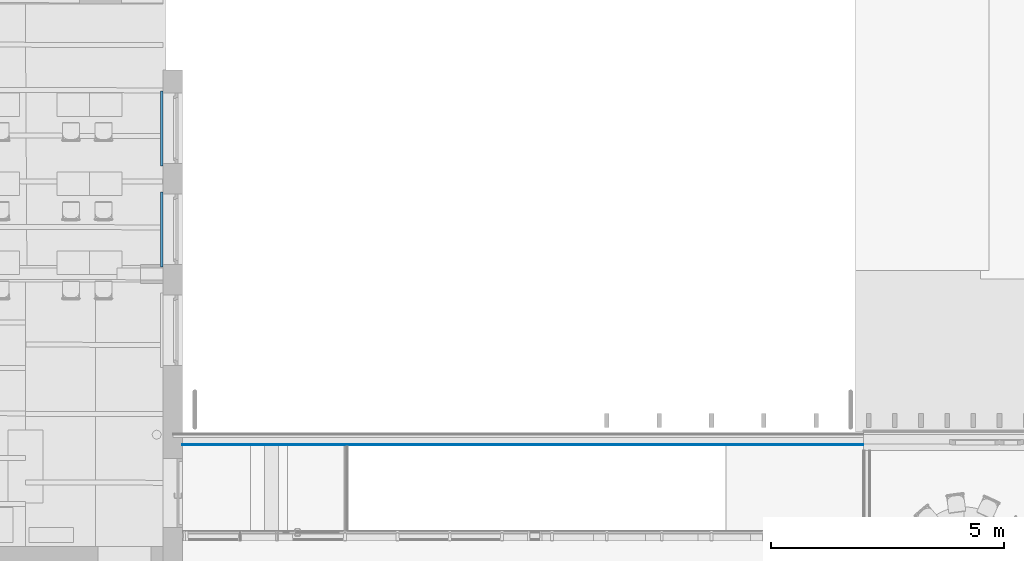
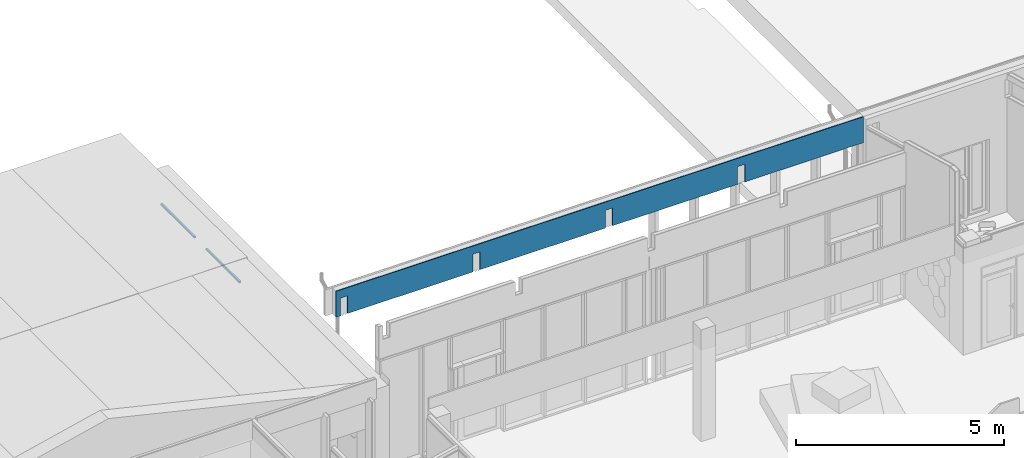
# One storey, part 66 of 153: 2 building element parts, 2 discrete accessories, 1 element without a shape of its own.
"""IFC2X3 building model written with IfcOpenShell, lengths in millimetres."""

from ifc_helpers import new_model, entity, si_unit, converted_unit, derived_unit, money_unit, direction, frame, origin_with_axes, place, context, subcontext, project, spatial, faceted_brep, material, type_object, element, aggregate, save


model = new_model("IFC2X3")

# Units and contexts
model_context = context("Model", 3, precision=0.01, world=origin_with_axes(), true_north=direction((0.0, 1.0)))
body_context = subcontext(model_context, "Body", "Model", "MODEL_VIEW")
ifc_project = project(units=[si_unit("LENGTHUNIT", "METRE", prefix="MILLI"), si_unit("AREAUNIT", "SQUARE_METRE"), si_unit("VOLUMEUNIT", "CUBIC_METRE"), converted_unit("PLANEANGLEUNIT", "DEGREE", entity("IfcPlaneAngleMeasure", 0.0174532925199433), si_unit("PLANEANGLEUNIT", "RADIAN"), dimensions=[0, 0, 0, 0, 0, 0, 0]), money_unit("EUR"), converted_unit("TIMEUNIT", "Year", entity("IfcTimeMeasure", 31557600.0), si_unit("TIMEUNIT", "SECOND"), dimensions=[0, 0, 1, 0, 0, 0, 0]), si_unit("MASSUNIT", "GRAM", prefix="KILO"), si_unit("THERMODYNAMICTEMPERATUREUNIT", "DEGREE_CELSIUS"), si_unit("LUMINOUSINTENSITYUNIT", "LUMEN"), si_unit("ENERGYUNIT", "JOULE", prefix="MEGA"), derived_unit("THERMALCONDUCTANCEUNIT", [(si_unit("POWERUNIT", "WATT"), 1), (si_unit("LENGTHUNIT", "METRE"), -1), (si_unit("THERMODYNAMICTEMPERATUREUNIT", "KELVIN"), -1)]), derived_unit("SPECIFICHEATCAPACITYUNIT", [(si_unit("ENERGYUNIT", "JOULE"), 1), (si_unit("MASSUNIT", "GRAM", prefix="KILO"), -1), (si_unit("THERMODYNAMICTEMPERATUREUNIT", "KELVIN"), -1)]), derived_unit("MASSDENSITYUNIT", [(si_unit("MASSUNIT", "GRAM", prefix="KILO"), 1), (si_unit("VOLUMEUNIT", "CUBIC_METRE"), -1)])], contexts=[model_context])

# Site, building, storey
site_placement = place(None, frame((0.0, 0.0, 8650.0), z_axis=(0.0, 0.0, 1.0), x_axis=(1.0, 0.0, 0.0)))
site = spatial("IfcSite", under=ifc_project, at=site_placement, Name="43301:001:0844", CompositionType="ELEMENT")
building_placement = place(site_placement, origin_with_axes())
building = spatial("IfcBuilding", under=site, at=building_placement, Name="Kuressaare Ametikooli tuulikute mehaanikute õppekorpus", CompositionType="ELEMENT")
storey_placement = place(building_placement, frame((0.0, 0.0, 4100.0), z_axis=(0.0, 0.0, 1.0), x_axis=(1.0, 0.0, 0.0)))
storey = spatial("IfcBuildingStorey", under=building, at=storey_placement, Name="2.korrus", CompositionType="ELEMENT", Elevation=4100.0)

# Discrete accessories
ifc_material_1 = material(Name="GENEERILINE - KONSTRUKTRIOON")
discrete_accessory_type = type_object("IfcDiscreteAccessoryType", Name="GENEERILINE - KONSTRUKTRIOON 50")
for number, where, z_axis, x_axis, name in (
    (1, (103227.5122070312, 35973.40836506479, 2170.000000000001), (0.0, 0.0, 1.0), (1.0, 0.0, 0.0), "RK2"),
    (2, (103227.5122070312, 33804.00949964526, 2170.000000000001), (0.0, 0.0, 1.0), (1.0, 0.0, 0.0), "RK2"),
):
    element("IfcDiscreteAccessory", number, at=place(storey_placement, frame(where, z_axis=z_axis, x_axis=x_axis)), inside=storey, type_object=discrete_accessory_type, material=ifc_material_1, Name=name, context=body_context, shape_type="Brep", body=[
        faceted_brep([(0.0, 0.0, 49.99999999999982), (0.0, 0.0, 0.0), (-49.99999999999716, 0.0, 0.0), (-49.99999999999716, 0.0, 49.99999999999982), (0.0, -1610.0, 49.99999999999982), (0.0, -1610.0, 0.0), (-49.99999999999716, -1610.0, 0.0), (-49.99999999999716, -1610.0, 49.99999999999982)], [[[0, 1, 2, 3]], [[4, 5, 1, 0]], [[2, 1, 5, 6]], [[3, 2, 6, 7]], [[4, 0, 3, 7]], [[7, 6, 5, 4]]]),
    ])

# Wall, building element parts
wall_type = type_object("IfcWallType", Name="VS_klaasfassaadi peal 246", PredefinedType="NOTDEFINED")
wall_placement = place(storey_placement, frame((103647.5122070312, 28356.59477213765, 3332.284635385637), z_axis=(0.0, 0.0, 1.0), x_axis=(1.0, 0.0, 0.0)))
wall = element("IfcWall", 3, at=wall_placement, inside=storey, type_object=wall_type, Name="Välissein")
ifc_material_2 = material(Name="Air Space - Frame")
building_element_part_1_placement = place(wall_placement, origin_with_axes())
building_element_part_1 = element("IfcBuildingElementPart", 4, at=building_element_part_1_placement, material=ifc_material_2, Name="Air Space - Frame", context=body_context, shape_type="Brep", body=[
    faceted_brep([(12414.58518066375, 22.99999999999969, 17.7153646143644), (12414.58518066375, 22.99999999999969, 0.0), (11345.43716757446, 22.99999999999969, 0.0), (11345.43716757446, 22.99999999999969, 512.2518524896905), (11145.43716757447, 22.99999999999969, 512.2518524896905), (11145.43716757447, 22.99999999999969, 0.0), (10314.58518066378, 22.99999999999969, 0.0), (10314.58518066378, 22.99999999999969, 17.7153646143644), (10306.58518066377, 22.99999999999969, 17.7153646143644), (10306.58518066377, 22.99999999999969, 0.0), (10172.58518066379, 22.99999999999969, 0.0), (10172.58518066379, 22.99999999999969, 17.7153646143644), (10164.58518066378, 22.99999999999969, 17.7153646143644), (10164.58518066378, 22.99999999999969, 0.0), (8069.593654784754, 22.99999999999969, 0.0), (8069.593654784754, 22.99999999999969, 17.7153646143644), (8061.593654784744, 22.99999999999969, 17.7153646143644), (8061.593654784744, 22.99999999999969, 0.0), (7927.593654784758, 22.99999999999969, 0.0), (7927.593654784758, 22.99999999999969, 17.7153646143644), (7919.593654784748, 22.99999999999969, 17.7153646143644), (7919.593654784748, 22.99999999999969, 0.0), (7670.437167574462, 22.99999999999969, 0.0), (7670.437167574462, 22.99999999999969, 512.2531281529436), (7470.437167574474, 22.99999999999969, 512.2531281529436), (7470.437167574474, 22.99999999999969, 0.0), (5819.585180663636, 22.99999999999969, 0.0), (5819.585180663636, 22.99999999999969, 17.7153646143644), (5811.585180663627, 22.99999999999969, 17.7153646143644), (5811.585180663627, 22.99999999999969, 0.0), (5677.585180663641, 22.99999999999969, 0.0), (5677.585180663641, 22.99999999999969, 17.7153646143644), (5669.585180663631, 22.99999999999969, 17.7153646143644), (5669.585180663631, 22.99999999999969, 0.0), (3995.437167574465, 22.99999999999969, 0.0), (3995.437167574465, 22.99999999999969, 512.2531281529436), (3795.437167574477, 22.99999999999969, 512.2531281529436), (3795.437167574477, 22.99999999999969, 0.0), (3569.585180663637, 22.99999999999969, 0.0), (3569.585180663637, 22.99999999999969, 17.7153646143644), (3561.585180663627, 22.99999999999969, 17.7153646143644), (3561.585180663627, 22.99999999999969, 0.0), (3427.585180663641, 22.99999999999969, 0.0), (3427.585180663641, 22.99999999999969, 17.7153646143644), (3419.585180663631, 22.99999999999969, 17.7153646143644), (3419.585180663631, 22.99999999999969, 0.0), (320.439934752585, 22.99999999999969, 0.0), (320.439934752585, 22.99999999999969, 512.2518524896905), (120.4399347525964, 22.99999999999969, 512.2518524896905), (120.4399347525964, 22.99999999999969, 0.0), (27.58518066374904, 22.99999999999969, 0.0), (27.58518066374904, 22.99999999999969, 17.7153646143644), (19.58518066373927, 22.99999999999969, 17.7153646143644), (19.58518066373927, 22.99999999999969, 0.0), (2.764821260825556e-06, 22.99999999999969, 0.0), (2.764821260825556e-06, 22.99999999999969, 762.3602261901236), (14633.76352335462, 22.99999999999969, 762.3602261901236), (14633.76352335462, 22.99999999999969, 0.0), (12564.58518066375, 22.99999999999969, 0.0), (12564.58518066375, 22.99999999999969, 17.7153646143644), (12556.58518066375, 22.99999999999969, 17.7153646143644), (12556.58518066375, 22.99999999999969, 0.0), (12422.58518066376, 22.99999999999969, 0.0), (12422.58518066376, 22.99999999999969, 17.7153646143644), (12414.58518066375, 22.97329732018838, 17.7153646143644), (12414.58518066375, 22.97329732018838, 0.0), (12424.58518066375, 5.652789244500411, 0.0), (12434.48552490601, 3.000000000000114, 0.0), (11345.43716757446, 3.000000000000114, 0.0), (12417.26467258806, 12.97329732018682, 0.0), (11345.43716757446, 3.000000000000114, 517.6108343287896), (11145.43716757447, 3.000000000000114, 517.6108343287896), (11145.43716757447, 3.000000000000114, 0.0), (10314.58518066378, 22.97329732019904, 0.0), (10294.6848364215, 3.000000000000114, 0.0), (10304.58518066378, 5.652789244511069, 0.0), (10311.90568873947, 12.97329732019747, 0.0), (10314.58518066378, 22.97329732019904, 17.7153646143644), (10311.90568873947, 12.97329732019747, 17.7153646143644), (10304.58518066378, 5.652789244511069, 17.7153646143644), (10294.6848364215, 3.000000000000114, 17.7153646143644), (10184.48552490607, 3.000000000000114, 17.7153646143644), (10174.58518066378, 5.652789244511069, 17.7153646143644), (10167.26467258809, 12.97329732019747, 17.7153646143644), (10164.58518066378, 22.97329732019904, 17.7153646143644), (10172.58518066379, 22.97329732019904, 17.7153646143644), (10176.09989928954, 14.48801594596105, 17.7153646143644), (10184.58518066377, 10.97329732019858, 17.7153646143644), (10294.58518066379, 10.97329732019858, 17.7153646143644), (10303.07046203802, 14.48801594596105, 17.7153646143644), (10306.58518066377, 22.97329732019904, 17.7153646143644), (10306.58518066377, 22.97329732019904, 0.0), (10172.58518066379, 22.97329732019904, 0.0), (10303.07046203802, 14.48801594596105, 0.0), (10294.58518066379, 10.97329732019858, 0.0), (10184.58518066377, 10.97329732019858, 0.0), (10176.09989928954, 14.48801594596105, 0.0), (10164.58518066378, 22.97329732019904, 0.0), (8069.593654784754, 22.97329732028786, 0.0), (10167.26467258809, 12.97329732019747, 0.0), (10174.58518066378, 5.652789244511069, 0.0), (10184.48552490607, 3.000000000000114, 0.0), (8049.693310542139, 3.000000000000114, 0.0), (8059.593654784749, 5.652789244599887, 0.0), (8066.914162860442, 12.97329732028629, 0.0), (8069.593654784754, 22.97329732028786, 17.7153646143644), (8066.914162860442, 12.97329732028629, 17.7153646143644), (8059.593654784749, 5.652789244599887, 17.7153646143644), (8049.693310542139, 3.000000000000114, 17.7153646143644), (7939.493999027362, 3.000000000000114, 17.7153646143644), (7929.593654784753, 5.652789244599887, 17.7153646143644), (7922.27314670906, 12.97329732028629, 17.7153646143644), (7919.593654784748, 22.97329732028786, 17.7153646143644), (7927.593654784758, 22.97329732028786, 17.7153646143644), (7931.10837341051, 14.48801594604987, 17.7153646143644), (7939.593654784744, 10.9732973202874, 17.7153646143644), (8049.593654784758, 10.9732973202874, 17.7153646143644), (8058.078936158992, 14.48801594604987, 17.7153646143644), (8061.593654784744, 22.97329732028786, 17.7153646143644), (8061.593654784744, 22.97329732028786, 0.0), (7927.593654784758, 22.97329732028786, 0.0), (8058.078936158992, 14.48801594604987, 0.0), (8049.593654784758, 10.9732973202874, 0.0), (7939.593654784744, 10.9732973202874, 0.0), (7931.10837341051, 14.48801594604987, 0.0), (7919.593654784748, 22.97329732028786, 0.0), (7929.593654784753, 5.652789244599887, 0.0), (7939.493999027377, 3.000000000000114, 0.0), (7670.437167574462, 3.000000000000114, 0.0), (7922.27314670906, 12.97329732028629, 0.0), (7670.437167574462, 3.000000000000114, 517.6121099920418), (7470.437167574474, 3.000000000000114, 517.6121099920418), (7470.437167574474, 3.000000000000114, 0.0), (5819.585180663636, 22.97329732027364, 0.0), (5799.684836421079, 3.000000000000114, 0.0), (5809.585180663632, 5.652789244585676, 0.0), (5816.905688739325, 12.97329732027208, 0.0), (5819.585180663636, 22.97329732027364, 17.7153646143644), (5816.905688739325, 12.97329732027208, 17.7153646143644), (5809.585180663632, 5.652789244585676, 17.7153646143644), (5799.684836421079, 3.000000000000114, 17.7153646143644), (5689.485524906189, 3.000000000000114, 17.7153646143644), (5679.585180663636, 5.652789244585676, 17.7153646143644), (5672.264672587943, 12.97329732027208, 17.7153646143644), (5669.585180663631, 22.97329732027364, 17.7153646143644), (5677.585180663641, 22.97329732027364, 17.7153646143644), (5681.099899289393, 14.48801594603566, 17.7153646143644), (5689.585180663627, 10.97329732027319, 17.7153646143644), (5799.585180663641, 10.97329732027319, 17.7153646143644), (5808.070462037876, 14.48801594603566, 17.7153646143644), (5811.585180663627, 22.97329732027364, 17.7153646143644), (5811.585180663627, 22.97329732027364, 0.0), (5677.585180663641, 22.97329732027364, 0.0), (5808.070462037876, 14.48801594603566, 0.0), (5799.585180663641, 10.97329732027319, 0.0), (5689.585180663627, 10.97329732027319, 0.0), (5681.099899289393, 14.48801594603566, 0.0), (5669.585180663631, 22.97329732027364, 0.0), (5679.585180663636, 5.652789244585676, 0.0), (5689.485524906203, 3.000000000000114, 0.0), (3995.437167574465, 3.000000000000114, 0.0), (5672.264672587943, 12.97329732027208, 0.0), (3995.437167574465, 3.000000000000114, 517.6121099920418), (3795.437167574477, 3.000000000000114, 517.6121099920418), (3795.437167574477, 3.000000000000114, 0.0), (3569.585180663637, 22.97329732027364, 0.0), (3549.684836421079, 3.000000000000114, 0.0), (3559.585180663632, 5.652789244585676, 0.0), (3566.905688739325, 12.97329732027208, 0.0), (3569.585180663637, 22.97329732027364, 17.7153646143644), (3566.905688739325, 12.97329732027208, 17.7153646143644), (3559.585180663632, 5.652789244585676, 17.7153646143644), (3549.684836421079, 3.000000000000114, 17.7153646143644), (3439.485524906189, 3.000000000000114, 17.7153646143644), (3429.585180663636, 5.652789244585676, 17.7153646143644), (3422.264672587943, 12.97329732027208, 17.7153646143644), (3419.585180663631, 22.97329732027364, 17.7153646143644), (3427.585180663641, 22.97329732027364, 17.7153646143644), (3431.099899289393, 14.48801594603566, 17.7153646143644), (3439.585180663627, 10.97329732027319, 17.7153646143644), (3549.585180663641, 10.97329732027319, 17.7153646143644), (3558.070462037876, 14.48801594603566, 17.7153646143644), (3561.585180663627, 22.97329732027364, 17.7153646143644), (3561.585180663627, 22.97329732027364, 0.0), (3427.585180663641, 22.97329732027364, 0.0), (3558.070462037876, 14.48801594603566, 0.0), (3549.585180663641, 10.97329732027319, 0.0), (3439.585180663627, 10.97329732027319, 0.0), (3431.099899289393, 14.48801594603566, 0.0), (3419.585180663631, 22.97329732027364, 0.0), (3429.585180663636, 5.652789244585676, 0.0), (3439.485524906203, 3.000000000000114, 0.0), (320.439934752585, 3.000000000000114, 0.0), (3422.264672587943, 12.97329732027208, 0.0), (320.439934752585, 3.000000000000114, 517.6108343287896), (120.4399347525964, 3.000000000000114, 517.6108343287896), (120.4399347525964, 10.9732973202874, 17.7153646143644), (120.4399347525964, 10.9732973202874, 0.0), (120.4399347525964, 3.000000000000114, 17.7153646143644), (27.58518066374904, 22.97329732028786, 0.0), (39.58518066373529, 10.9732973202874, 0.0), (31.09989928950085, 14.48801594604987, 0.0), (27.58518066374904, 22.97329732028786, 17.7153646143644), (39.48552490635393, 3.000000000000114, 17.7153646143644), (29.58518066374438, 5.652789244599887, 17.7153646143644), (22.26467258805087, 12.97329732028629, 17.7153646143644), (19.58518066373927, 22.97329732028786, 17.7153646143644), (31.09989928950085, 14.48801594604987, 17.7153646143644), (39.58518066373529, 10.9732973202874, 17.7153646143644), (19.58518066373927, 22.97329732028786, 0.0), (29.58518066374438, 5.652789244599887, 0.0), (39.48552490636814, 3.000000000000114, 0.0), (1.511935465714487e-05, 3.000000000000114, 0.0), (22.26467258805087, 12.97329732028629, 0.0), (1.511935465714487e-05, 3.000000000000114, 762.3602261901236), (14633.76352335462, 3.000000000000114, 762.3602261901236), (14633.76352335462, 3.000000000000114, 0.0), (12564.58518066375, 22.97329732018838, 0.0), (12544.68483642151, 3.000000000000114, 0.0), (12554.58518066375, 5.652789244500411, 0.0), (12561.90568873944, 12.97329732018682, 0.0), (12564.58518066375, 22.97329732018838, 17.7153646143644), (12561.90568873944, 12.97329732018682, 17.7153646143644), (12554.58518066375, 5.652789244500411, 17.7153646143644), (12544.68483642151, 3.000000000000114, 17.7153646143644), (12434.48552490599, 3.000000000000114, 17.7153646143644), (12424.58518066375, 5.652789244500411, 17.7153646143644), (12417.26467258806, 12.97329732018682, 17.7153646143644), (12422.58518066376, 22.97329732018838, 17.7153646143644), (12426.09989928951, 14.48801594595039, 17.7153646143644), (12434.58518066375, 10.97329732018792, 17.7153646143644), (12544.58518066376, 10.97329732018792, 17.7153646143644), (12553.07046203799, 14.48801594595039, 17.7153646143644), (12556.58518066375, 22.97329732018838, 17.7153646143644), (12556.58518066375, 22.97329732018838, 0.0), (12422.58518066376, 22.97329732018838, 0.0), (12553.07046203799, 14.48801594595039, 0.0), (12544.58518066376, 10.97329732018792, 0.0), (12434.58518066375, 10.97329732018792, 0.0), (12426.09989928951, 14.48801594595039, 0.0)], [[[0, 1, 2, 3, 4, 5, 6, 7, 8, 9, 10, 11, 12, 13, 14, 15, 16, 17, 18, 19, 20, 21, 22, 23, 24, 25, 26, 27, 28, 29, 30, 31, 32, 33, 34, 35, 36, 37, 38, 39, 40, 41, 42, 43, 44, 45, 46, 47, 48, 49, 50, 51, 52, 53, 54, 55, 56, 57, 58, 59, 60, 61, 62, 63]], [[1, 0, 64, 65]], [[66, 67, 68, 2, 1, 65, 69]], [[70, 3, 2, 68]], [[71, 4, 3, 70]], [[72, 5, 4, 71]], [[73, 6, 5, 72, 74, 75, 76]], [[7, 6, 73, 77]], [[8, 7, 77, 78, 79, 80, 81, 82, 83, 84, 12, 11, 85, 86, 87, 88, 89, 90]], [[9, 8, 90, 91]], [[92, 10, 9, 91, 93, 94, 95, 96]], [[11, 10, 92, 85]], [[13, 12, 84, 97]], [[98, 14, 13, 97, 99, 100, 101, 102, 103, 104]], [[15, 14, 98, 105]], [[16, 15, 105, 106, 107, 108, 109, 110, 111, 112, 20, 19, 113, 114, 115, 116, 117, 118]], [[17, 16, 118, 119]], [[120, 18, 17, 119, 121, 122, 123, 124]], [[19, 18, 120, 113]], [[21, 20, 112, 125]], [[126, 127, 128, 22, 21, 125, 129]], [[130, 23, 22, 128]], [[131, 24, 23, 130]], [[132, 25, 24, 131]], [[133, 26, 25, 132, 134, 135, 136]], [[27, 26, 133, 137]], [[28, 27, 137, 138, 139, 140, 141, 142, 143, 144, 32, 31, 145, 146, 147, 148, 149, 150]], [[29, 28, 150, 151]], [[152, 30, 29, 151, 153, 154, 155, 156]], [[31, 30, 152, 145]], [[33, 32, 144, 157]], [[158, 159, 160, 34, 33, 157, 161]], [[162, 35, 34, 160]], [[163, 36, 35, 162]], [[164, 37, 36, 163]], [[165, 38, 37, 164, 166, 167, 168]], [[39, 38, 165, 169]], [[40, 39, 169, 170, 171, 172, 173, 174, 175, 176, 44, 43, 177, 178, 179, 180, 181, 182]], [[41, 40, 182, 183]], [[184, 42, 41, 183, 185, 186, 187, 188]], [[43, 42, 184, 177]], [[45, 44, 176, 189]], [[190, 191, 192, 46, 45, 189, 193]], [[194, 47, 46, 192]], [[195, 48, 47, 194]], [[196, 197, 49, 48, 195, 198]], [[199, 50, 49, 197, 200, 201]], [[51, 50, 199, 202]], [[196, 198, 203, 204, 205, 206, 52, 51, 202, 207, 208]], [[53, 52, 206, 209]], [[210, 211, 212, 54, 53, 209, 213]], [[54, 212, 214, 55]], [[55, 214, 215, 56]], [[57, 56, 215, 216]], [[217, 58, 57, 216, 218, 219, 220]], [[59, 58, 217, 221]], [[60, 59, 221, 222, 223, 224, 225, 226, 227, 64, 0, 63, 228, 229, 230, 231, 232, 233]], [[61, 60, 233, 234]], [[235, 62, 61, 234, 236, 237, 238, 239]], [[63, 62, 235, 228]], [[69, 65, 64, 227]], [[225, 67, 66, 226]], [[224, 218, 216, 215, 214, 212, 211, 203, 198, 195, 194, 192, 191, 173, 172, 166, 164, 163, 162, 160, 159, 141, 140, 134, 132, 131, 130, 128, 127, 109, 108, 102, 101, 81, 80, 74, 72, 71, 70, 68, 67, 225]], [[66, 69, 227, 226]], [[75, 74, 80, 79]], [[76, 75, 79, 78]], [[73, 76, 78, 77]], [[81, 101, 100, 82]], [[100, 99, 83, 82]], [[99, 97, 84, 83]], [[92, 96, 86, 85]], [[96, 95, 87, 86]], [[95, 94, 88, 87]], [[94, 93, 89, 88]], [[93, 91, 90, 89]], [[103, 102, 108, 107]], [[104, 103, 107, 106]], [[98, 104, 106, 105]], [[109, 127, 126, 110]], [[126, 129, 111, 110]], [[129, 125, 112, 111]], [[120, 124, 114, 113]], [[124, 123, 115, 114]], [[123, 122, 116, 115]], [[122, 121, 117, 116]], [[121, 119, 118, 117]], [[135, 134, 140, 139]], [[136, 135, 139, 138]], [[133, 136, 138, 137]], [[141, 159, 158, 142]], [[158, 161, 143, 142]], [[161, 157, 144, 143]], [[152, 156, 146, 145]], [[156, 155, 147, 146]], [[155, 154, 148, 147]], [[154, 153, 149, 148]], [[153, 151, 150, 149]], [[167, 166, 172, 171]], [[168, 167, 171, 170]], [[165, 168, 170, 169]], [[173, 191, 190, 174]], [[190, 193, 175, 174]], [[193, 189, 176, 175]], [[184, 188, 178, 177]], [[188, 187, 179, 178]], [[187, 186, 180, 179]], [[186, 185, 181, 180]], [[185, 183, 182, 181]], [[197, 196, 208, 200]], [[201, 200, 208, 207]], [[199, 201, 207, 202]], [[203, 211, 210, 204]], [[210, 213, 205, 204]], [[213, 209, 206, 205]], [[219, 218, 224, 223]], [[220, 219, 223, 222]], [[217, 220, 222, 221]], [[235, 239, 229, 228]], [[239, 238, 230, 229]], [[238, 237, 231, 230]], [[237, 236, 232, 231]], [[236, 234, 233, 232]]]),
])
ifc_material_3 = material(Name="GENEERILINE - SISEMINE VOODER")
building_element_part_2_placement = place(wall_placement, origin_with_axes())
building_element_part_2 = element("IfcBuildingElementPart", 5, at=building_element_part_2_placement, material=ifc_material_3, Name="GENEERILINE - SISEMINE VOODER", context=body_context, shape_type="Brep", body=[
    faceted_brep([(12434.48552490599, 3.000000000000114, 17.7153646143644), (12434.48552490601, 3.000000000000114, 0.0), (11345.43716757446, 3.000000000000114, 0.0), (11345.43716757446, 3.000000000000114, 517.6108343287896), (11145.43716757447, 3.000000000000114, 517.6108343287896), (11145.43716757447, 3.000000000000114, 0.0), (10294.6848364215, 3.000000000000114, 0.0), (10294.6848364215, 3.000000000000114, 17.7153646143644), (10184.48552490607, 3.000000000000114, 17.7153646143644), (10184.48552490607, 3.000000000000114, 0.0), (8049.693310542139, 3.000000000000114, 0.0), (8049.693310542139, 3.000000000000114, 17.7153646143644), (7939.493999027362, 3.000000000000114, 17.7153646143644), (7939.493999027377, 3.000000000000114, 0.0), (7670.437167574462, 3.000000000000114, 0.0), (7670.437167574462, 3.000000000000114, 517.6121099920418), (7470.437167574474, 3.000000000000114, 517.6121099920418), (7470.437167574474, 3.000000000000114, 0.0), (5799.684836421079, 3.000000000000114, 0.0), (5799.684836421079, 3.000000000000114, 17.7153646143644), (5689.485524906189, 3.000000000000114, 17.7153646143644), (5689.485524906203, 3.000000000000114, 0.0), (3995.437167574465, 3.000000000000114, 0.0), (3995.437167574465, 3.000000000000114, 517.6121099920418), (3795.437167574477, 3.000000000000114, 517.6121099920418), (3795.437167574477, 3.000000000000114, 0.0), (3549.684836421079, 3.000000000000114, 0.0), (3549.684836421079, 3.000000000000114, 17.7153646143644), (3439.485524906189, 3.000000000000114, 17.7153646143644), (3439.485524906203, 3.000000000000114, 0.0), (320.439934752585, 3.000000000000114, 0.0), (320.439934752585, 3.000000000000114, 517.6108343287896), (120.4399347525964, 3.000000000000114, 517.6108343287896), (120.4399347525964, 3.000000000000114, 17.7153646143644), (39.48552490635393, 3.000000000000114, 17.7153646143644), (39.48552490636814, 3.000000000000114, 0.0), (1.511935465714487e-05, 3.000000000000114, 0.0), (1.511935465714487e-05, 3.000000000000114, 762.3602261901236), (14633.76352335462, 3.000000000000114, 762.3602261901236), (14633.76352335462, 3.000000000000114, 0.0), (12544.68483642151, 3.000000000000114, 0.0), (12544.68483642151, 3.000000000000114, 17.7153646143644), (12434.58518066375, 2.973297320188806, 0.0), (12434.58518066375, 2.973297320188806, 17.7153646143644), (12544.58518066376, 2.973297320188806, 0.0), (14633.76352335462, 0.0, 0.0), (1.69725353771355e-05, 0.0, 0.0), (39.58518066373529, 2.973297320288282, 0.0), (120.4399347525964, 2.973297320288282, 0.0), (120.4399347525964, 2.89832817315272, 0.0), (320.439934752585, 2.89832817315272, 0.0), (3439.585180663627, 2.973297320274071, 0.0), (3549.585180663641, 2.973297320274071, 0.0), (3795.437167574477, 2.903089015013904, 0.0), (3995.437167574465, 2.903089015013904, 0.0), (5689.585180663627, 2.973297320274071, 0.0), (5799.585180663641, 2.973297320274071, 0.0), (7470.437167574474, 2.903089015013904, 0.0), (7670.437167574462, 2.903089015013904, 0.0), (7939.593654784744, 2.973297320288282, 0.0), (8049.593654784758, 2.973297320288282, 0.0), (10184.58518066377, 2.973297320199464, 0.0), (10294.58518066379, 2.973297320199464, 0.0), (11145.43716757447, 2.89832817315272, 0.0), (11345.43716757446, 2.89832817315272, 0.0), (11345.43716757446, 0.0, 518.4146816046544), (11345.43716757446, 0.0, 0.776604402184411), (11145.43716757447, 0.0, 518.4146816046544), (11145.43716757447, 0.0, 0.776604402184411), (10294.58518066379, 2.973297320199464, 17.7153646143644), (10184.58518066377, 2.973297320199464, 17.7153646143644), (8049.593654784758, 2.973297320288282, 17.7153646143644), (7939.593654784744, 2.973297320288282, 17.7153646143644), (7670.437167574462, 0.0, 518.4159572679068), (7670.437167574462, 0.0, 0.7778800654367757), (7470.437167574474, 0.0, 518.4159572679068), (7470.437167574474, 0.0, 0.7778800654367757), (5799.585180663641, 2.973297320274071, 17.7153646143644), (5689.585180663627, 2.973297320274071, 17.7153646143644), (3995.437167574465, 0.0, 518.4159572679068), (3995.437167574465, 0.0, 0.7778800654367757), (3795.437167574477, 0.0, 518.4159572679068), (3795.437167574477, 0.0, 0.7778800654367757), (3549.585180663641, 2.973297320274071, 17.7153646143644), (3439.585180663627, 2.973297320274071, 17.7153646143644), (320.439934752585, 0.0, 518.4146816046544), (320.439934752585, 0.0, 0.776604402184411), (120.4399347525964, 0.0, 518.4146816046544), (120.4399347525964, 2.973297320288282, 17.7153646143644), (120.4399347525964, 0.0, 0.776604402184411), (39.58518066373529, 2.973297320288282, 17.7153646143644), (1.69725353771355e-05, 0.0, 762.3602261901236), (14633.76352335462, 0.0, 762.3602261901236), (12544.58518066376, 2.973297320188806, 17.7153646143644)], [[[0, 1, 2, 3, 4, 5, 6, 7, 8, 9, 10, 11, 12, 13, 14, 15, 16, 17, 18, 19, 20, 21, 22, 23, 24, 25, 26, 27, 28, 29, 30, 31, 32, 33, 34, 35, 36, 37, 38, 39, 40, 41]], [[42, 1, 0, 43]], [[44, 40, 39, 45, 46, 36, 35, 47, 48, 49, 50, 30, 29, 51, 52, 26, 25, 53, 54, 22, 21, 55, 56, 18, 17, 57, 58, 14, 13, 59, 60, 10, 9, 61, 62, 6, 5, 63, 64, 2, 1, 42]], [[65, 3, 2, 64, 66]], [[67, 4, 3, 65]], [[63, 5, 4, 67, 68]], [[7, 6, 62, 69]], [[8, 7, 69, 70]], [[61, 9, 8, 70]], [[11, 10, 60, 71]], [[12, 11, 71, 72]], [[59, 13, 12, 72]], [[73, 15, 14, 58, 74]], [[75, 16, 15, 73]], [[57, 17, 16, 75, 76]], [[19, 18, 56, 77]], [[20, 19, 77, 78]], [[55, 21, 20, 78]], [[79, 23, 22, 54, 80]], [[81, 24, 23, 79]], [[53, 25, 24, 81, 82]], [[27, 26, 52, 83]], [[28, 27, 83, 84]], [[51, 29, 28, 84]], [[85, 31, 30, 50, 86]], [[87, 32, 31, 85]], [[48, 88, 33, 32, 87, 89, 49]], [[34, 33, 88, 90]], [[47, 35, 34, 90]], [[36, 46, 91, 37]], [[37, 91, 92, 38]], [[39, 38, 92, 45]], [[41, 40, 44, 93]], [[0, 41, 93, 43]], [[44, 42, 43, 93]], [[91, 46, 45, 92], [80, 82, 81, 79], [66, 68, 67, 65], [86, 89, 87, 85], [74, 76, 75, 73]], [[88, 48, 47, 90]], [[86, 50, 49, 89]], [[52, 51, 84, 83]], [[80, 54, 53, 82]], [[56, 55, 78, 77]], [[74, 58, 57, 76]], [[60, 59, 72, 71]], [[62, 61, 70, 69]], [[66, 64, 63, 68]]]),
])
aggregate(wall, [building_element_part_1, building_element_part_2])

save(model, "model.ifc")
